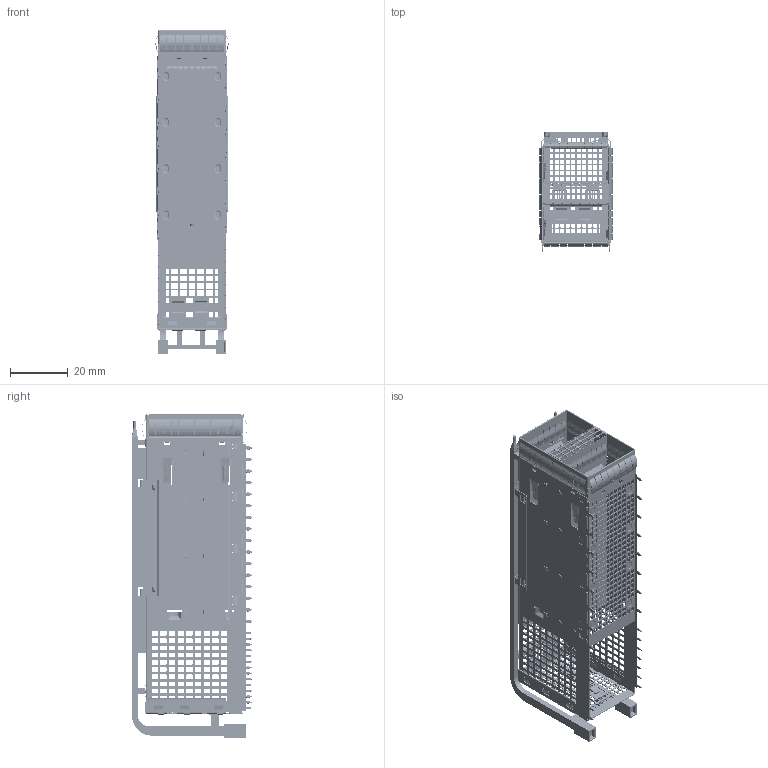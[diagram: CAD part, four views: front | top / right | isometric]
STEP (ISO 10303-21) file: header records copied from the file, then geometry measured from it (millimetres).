
FILE_DESCRIPTION((''),'2;1');
FILE_NAME('1747756089_1_1_1_1','2026-06-25T16:39:35',('39002408'),(''),'CREO PARAMETRIC BY PTC INC, 2019471','CREO PARAMETRIC BY PTC INC, 2019471','');
FILE_SCHEMA(('CONFIG_CONTROL_DESIGN'));
Products named in the file (1): 1747756089_1_1_1_1
Bounding box: 25.28 x 41.6 x 111.91 mm (x, y, z)
Volume: 11683.8 mm3; surface area: 47549.4 mm2
Topology: 1 solids, 1 shells, 12063 faces, 35189 edges, 22827 vertices
Faces by surface type: plane 5592, cylinder 5383, bspline 548, torus 524, sphere 16
Entity records: 428361 total; most frequent: CARTESIAN_POINT 101201, ORIENTED_EDGE 70346, DIRECTION 67337, EDGE_CURVE 35173, VERTEX_POINT 22827, AXIS2_PLACEMENT_3D 22619, VECTOR 22099, LINE 22099
